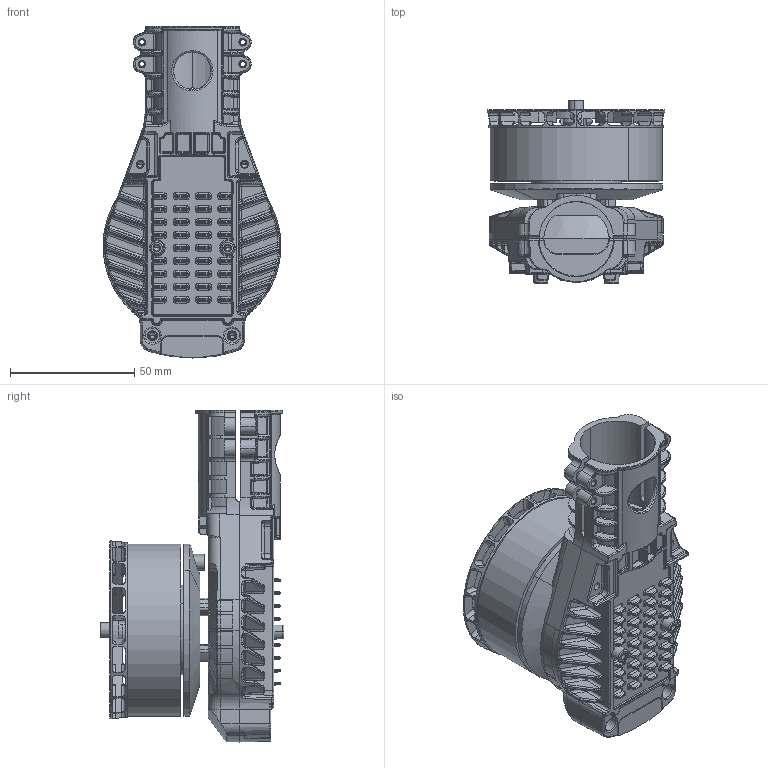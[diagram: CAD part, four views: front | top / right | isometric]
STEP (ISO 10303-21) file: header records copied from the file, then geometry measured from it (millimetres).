
FILE_DESCRIPTION (( 'STEP AP203' ), '1' );
FILE_NAME ('A6L-X蚾饜芞.STEP', '2024-07-17T08:02:44', ( '' ), ( '' ), 'SwSTEP 2.0', 'SolidWorks 2022', '' );
FILE_SCHEMA (( 'CONFIG_CONTROL_DESIGN' ));
Length unit declared in the file: millimetre
Products named in the file (14): A6L-X装配图; 零件10^A6-10.11整机备货示意B; A6-0.5防尘网B; C0102000732-A6-钢轴-AB; A6-X下盖REV02^A6一体机臂装配8.20B; A8-防尘网配套硅胶件B; A6-X上盖C修改版; A6-10.11整机备货示意B; 防尘网0.5厚^A6-10.11整机备货示意B; A6-X灯罩B; 铁芯^A6-10.11整机备货示意B; BJJ02012016-A6-后盖-AB; 前盖强加排风B; A6-钢圈^A6-10.11整机备货示意B
Assembly tree (11 placements, depth 3):
  A6L-X装配图
    A6-10.11整机备货示意B
      BJJ02012016-A6-后盖-AB
      C0102000732-A6-钢轴-AB
      A6-钢圈^A6-10.11整机备货示意B
      前盖强加排风B
      铁芯^A6-10.11整机备货示意B
    A6-0.5防尘网B
    A6-X上盖C修改版
    A6-X下盖REV02^A6一体机臂装配8.20B
    A8-防尘网配套硅胶件B
    A6-X灯罩B
  零件10^A6-10.11整机备货示意B
  防尘网0.5厚^A6-10.11整机备货示意B
Bounding box: 71.55 x 73.92 x 133.5 mm (x, y, z)
Volume: 168213.2 mm3; surface area: 106408.6 mm2
Topology: 10 solids, 12 shells, 4403 faces, 11361 edges, 6923 vertices
Faces by surface type: cylinder 1802, plane 1050, bspline 1001, cone 270, torus 234, sphere 46
Entity records: 159809 total; most frequent: CARTESIAN_POINT 59105, ORIENTED_EDGE 22498, DIRECTION 19212, EDGE_CURVE 11249, AXIS2_PLACEMENT_3D 7470, VERTEX_POINT 6915, EDGE_LOOP 4594, ADVANCED_FACE 4403
